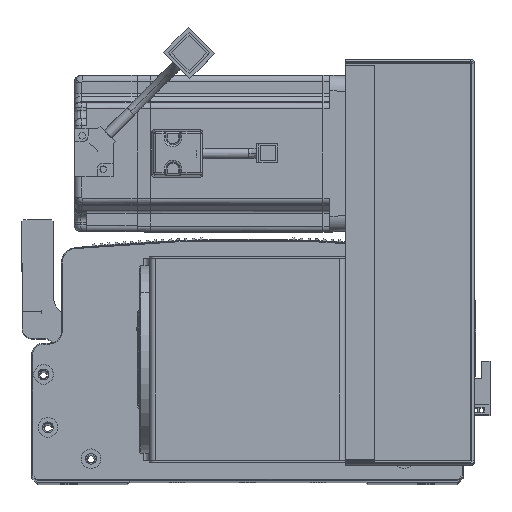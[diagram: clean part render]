
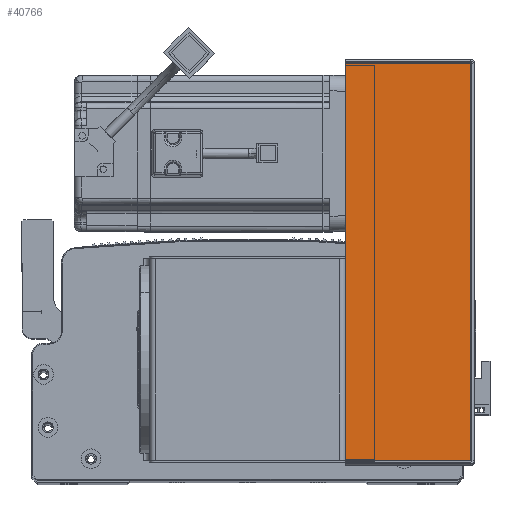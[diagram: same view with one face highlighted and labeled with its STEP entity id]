
A CAD part, top view. The second image highlights one B-rep face of the part: STEP entity #40766.
In plain terms, the highlighted planar face has unit normal (0, 0, 1) as drawn and (0, -1, 0) by its records, which use the part's own axes.
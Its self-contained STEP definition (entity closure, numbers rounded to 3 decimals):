
#236 = CARTESIAN_POINT ( 'NONE',  ( 0.737, -1.5, 0. ) ) ;
#1123 = VECTOR ( 'NONE', #8062, 1000. ) ;
#2331 = VECTOR ( 'NONE', #32344, 1000. ) ;
#4506 = VERTEX_POINT ( 'NONE', #17088 ) ;
#6717 = DIRECTION ( 'NONE',  ( 1., 0., 0. ) ) ;
#6814 = CARTESIAN_POINT ( 'NONE',  ( 64.5, -1.5, 0. ) ) ;
#8062 = DIRECTION ( 'NONE',  ( 1., 0., 0. ) ) ;
#11713 = DIRECTION ( 'NONE',  ( -1., 0., 0. ) ) ;
#13064 = ORIENTED_EDGE ( 'NONE', *, *, #80315, .F. ) ;
#17088 = CARTESIAN_POINT ( 'NONE',  ( 64.5, -1.5, -203.293 ) ) ;
#23501 = PLANE ( 'NONE',  #31213 ) ;
#29248 = LINE ( 'NONE', #6814, #34316 ) ;
#30734 = FACE_OUTER_BOUND ( 'NONE', #49619, .T. ) ;
#31213 = AXIS2_PLACEMENT_3D ( 'NONE', #49724, #81947, #11713 ) ;
#31297 = ORIENTED_EDGE ( 'NONE', *, *, #65209, .F. ) ;
#31333 = LINE ( 'NONE', #236, #2331 ) ;
#32344 = DIRECTION ( 'NONE',  ( 0., 0., 1. ) ) ;
#34316 = VECTOR ( 'NONE', #77835, 1000. ) ;
#36093 = LINE ( 'NONE', #65654, #1123 ) ;
#40766 = ADVANCED_FACE ( 'NONE', ( #30734 ), #23501, .F. ) ;
#44159 = VERTEX_POINT ( 'NONE', #79991 ) ;
#45602 = CARTESIAN_POINT ( 'NONE',  ( 0.737, -1.5, -0.707 ) ) ;
#45961 = EDGE_CURVE ( 'NONE', #44159, #4506, #36093, .T. ) ;
#49619 = EDGE_LOOP ( 'NONE', ( #13064, #72726, #70215, #31297 ) ) ;
#49724 = CARTESIAN_POINT ( 'NONE',  ( 0., -1.5, 0. ) ) ;
#49984 = EDGE_CURVE ( 'NONE', #4506, #65354, #29248, .T. ) ;
#51284 = LINE ( 'NONE', #77736, #64289 ) ;
#59159 = VERTEX_POINT ( 'NONE', #45602 ) ;
#64289 = VECTOR ( 'NONE', #6717, 1000. ) ;
#65209 = EDGE_CURVE ( 'NONE', #59159, #65354, #51284, .T. ) ;
#65354 = VERTEX_POINT ( 'NONE', #71569 ) ;
#65654 = CARTESIAN_POINT ( 'NONE',  ( 0., -1.5, -203.293 ) ) ;
#70215 = ORIENTED_EDGE ( 'NONE', *, *, #49984, .T. ) ;
#71569 = CARTESIAN_POINT ( 'NONE',  ( 64.5, -1.5, -0.707 ) ) ;
#72726 = ORIENTED_EDGE ( 'NONE', *, *, #45961, .T. ) ;
#77736 = CARTESIAN_POINT ( 'NONE',  ( 0., -1.5, -0.707 ) ) ;
#77835 = DIRECTION ( 'NONE',  ( 0., 0., 1. ) ) ;
#79991 = CARTESIAN_POINT ( 'NONE',  ( 0.737, -1.5, -203.293 ) ) ;
#80315 = EDGE_CURVE ( 'NONE', #44159, #59159, #31333, .T. ) ;
#81947 = DIRECTION ( 'NONE',  ( 0., 1., 0. ) ) ;
